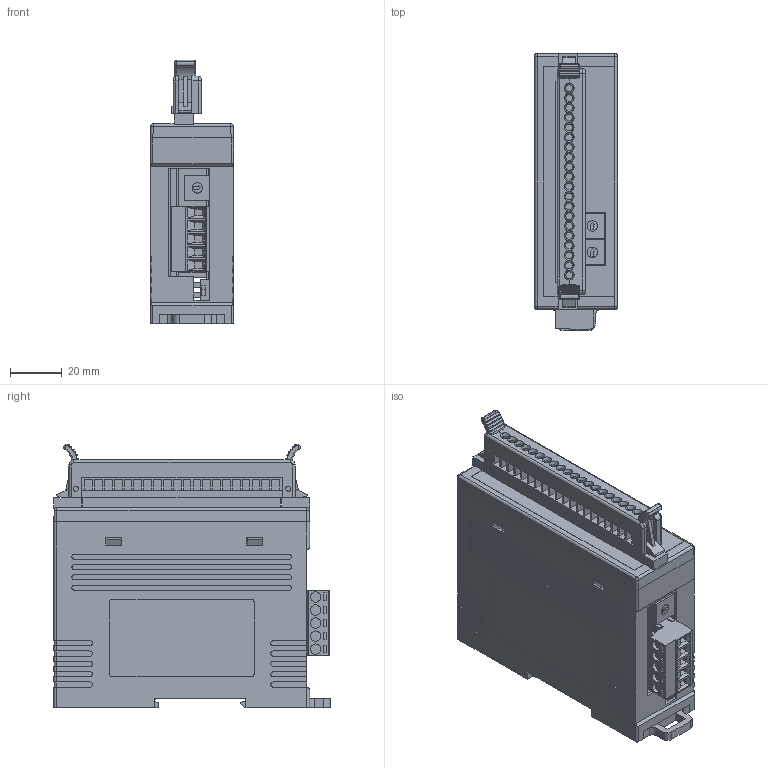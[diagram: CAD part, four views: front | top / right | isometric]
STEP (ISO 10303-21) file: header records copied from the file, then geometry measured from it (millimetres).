
FILE_DESCRIPTION (( 'STEP AP203' ), '1' );
FILE_NAME ('CAN-2017D.STEP', '2016-01-14T05:08:15', ( 'user' ), ( '' ), 'SwSTEP 2.0', 'SolidWorks 2013', '' );
FILE_SCHEMA (( 'CONFIG_CONTROL_DESIGN' ));
Length unit declared in the file: millimetre
Products named in the file (15): CAN-2017D; 有牛角高機構; 箭頭SW_0-F; CAN-2017D_PCB; CAN-2017D_02; SW89; 鋁軌固定片; 2K主體_01; DC-PowerPin(5.08)-5pin; CAN-2017D-UP_PCB; MC100-50805; 箭頭SW180; ME030-38120_180D; 2K接地鋁片; 牛角
Assembly tree (15 placements, depth 3):
  CAN-2017D
    CAN-2017D_02
    鋁軌固定片
    DC-PowerPin(5.08)-5pin
    MC100-50805
    ME030-38120_180D
    有牛角高機構
      牛角
    箭頭SW_0-F
    CAN-2017D_PCB
    SW89
    2K主體_01
    CAN-2017D-UP_PCB
    箭頭SW180  x2
    2K接地鋁片
Bounding box: 32.5 x 107 x 102.06 mm (x, y, z)
Volume: 85912 mm3; surface area: 103657.5 mm2
Topology: 18 solids, 18 shells, 2321 faces, 6255 edges, 4057 vertices
Faces by surface type: plane 1806, cylinder 411, cone 56, sphere 24, bspline 20, torus 4
Entity records: 73429 total; most frequent: CARTESIAN_POINT 13559, ORIENTED_EDGE 12360, DIRECTION 11544, EDGE_CURVE 6180, LINE 5146, VECTOR 5146, VERTEX_POINT 4022, AXIS2_PLACEMENT_3D 3199
